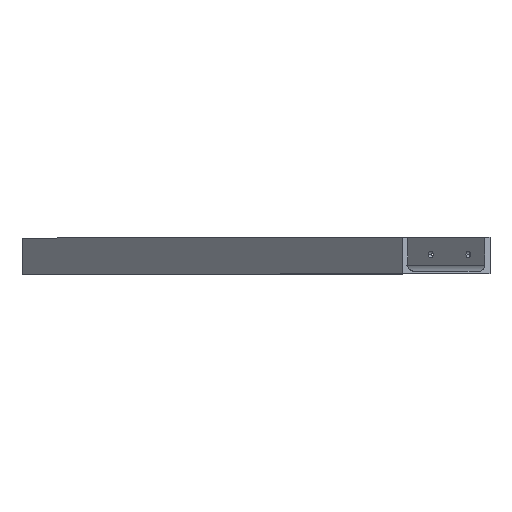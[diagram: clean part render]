
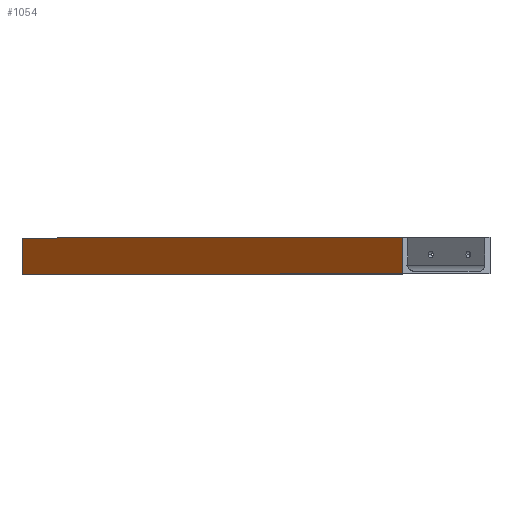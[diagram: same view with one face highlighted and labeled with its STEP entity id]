
A CAD part, top view. The second image highlights one B-rep face of the part: STEP entity #1054.
In plain terms, the highlighted planar face has unit normal (-0.707, 0, 0.707).
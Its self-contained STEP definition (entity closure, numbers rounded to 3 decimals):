
#8 = EDGE_CURVE ( 'NONE', #793, #3770, #3840, .T. ) ;
#43 = ORIENTED_EDGE ( 'NONE', *, *, #3519, .T. ) ;
#126 = CARTESIAN_POINT ( 'NONE',  ( 6910., 3545., -4205.442 ) ) ;
#323 = VECTOR ( 'NONE', #2498, 1000. ) ;
#750 = VECTOR ( 'NONE', #3471, 1000. ) ;
#763 = FACE_OUTER_BOUND ( 'NONE', #1074, .T. ) ;
#784 = VERTEX_POINT ( 'NONE', #3625 ) ;
#793 = VERTEX_POINT ( 'NONE', #1260 ) ;
#826 = CARTESIAN_POINT ( 'NONE',  ( 6072.721, 3545., -5042.721 ) ) ;
#892 = LINE ( 'NONE', #1149, #750 ) ;
#981 = ORIENTED_EDGE ( 'NONE', *, *, #8, .F. ) ;
#1054 = ADVANCED_FACE ( 'NONE', ( #763 ), #1412, .F. ) ;
#1074 = EDGE_LOOP ( 'NONE', ( #4008, #981, #2414, #43 ) ) ;
#1149 = CARTESIAN_POINT ( 'NONE',  ( 6125.442, 3545., -4990. ) ) ;
#1245 = VERTEX_POINT ( 'NONE', #126 ) ;
#1260 = CARTESIAN_POINT ( 'NONE',  ( 6125.442, 3620., -4990. ) ) ;
#1412 = PLANE ( 'NONE',  #3147 ) ;
#2096 = CARTESIAN_POINT ( 'NONE',  ( 6072.721, 3620., -5042.721 ) ) ;
#2168 = DIRECTION ( 'NONE',  ( 0.707, 0., 0.707 ) ) ;
#2237 = LINE ( 'NONE', #4243, #323 ) ;
#2414 = ORIENTED_EDGE ( 'NONE', *, *, #4092, .T. ) ;
#2498 = DIRECTION ( 'NONE',  ( 0.707, 0., 0.707 ) ) ;
#2837 = DIRECTION ( 'NONE',  ( 0., 1., 0. ) ) ;
#3004 = VECTOR ( 'NONE', #3464, 1000. ) ;
#3085 = DIRECTION ( 'NONE',  ( 0.707, 0., -0.707 ) ) ;
#3141 = LINE ( 'NONE', #4258, #3896 ) ;
#3147 = AXIS2_PLACEMENT_3D ( 'NONE', #826, #3085, #2168 ) ;
#3464 = DIRECTION ( 'NONE',  ( 0.707, 0., 0.707 ) ) ;
#3471 = DIRECTION ( 'NONE',  ( 0., -1., 0. ) ) ;
#3519 = EDGE_CURVE ( 'NONE', #784, #1245, #2237, .T. ) ;
#3625 = CARTESIAN_POINT ( 'NONE',  ( 6125.442, 3545., -4990. ) ) ;
#3708 = EDGE_CURVE ( 'NONE', #1245, #3770, #3141, .T. ) ;
#3770 = VERTEX_POINT ( 'NONE', #3819 ) ;
#3819 = CARTESIAN_POINT ( 'NONE',  ( 6910., 3620., -4205.442 ) ) ;
#3840 = LINE ( 'NONE', #2096, #3004 ) ;
#3896 = VECTOR ( 'NONE', #2837, 1000. ) ;
#4008 = ORIENTED_EDGE ( 'NONE', *, *, #3708, .T. ) ;
#4092 = EDGE_CURVE ( 'NONE', #793, #784, #892, .T. ) ;
#4243 = CARTESIAN_POINT ( 'NONE',  ( 6072.721, 3545., -5042.721 ) ) ;
#4258 = CARTESIAN_POINT ( 'NONE',  ( 6910., 3545., -4205.442 ) ) ;
